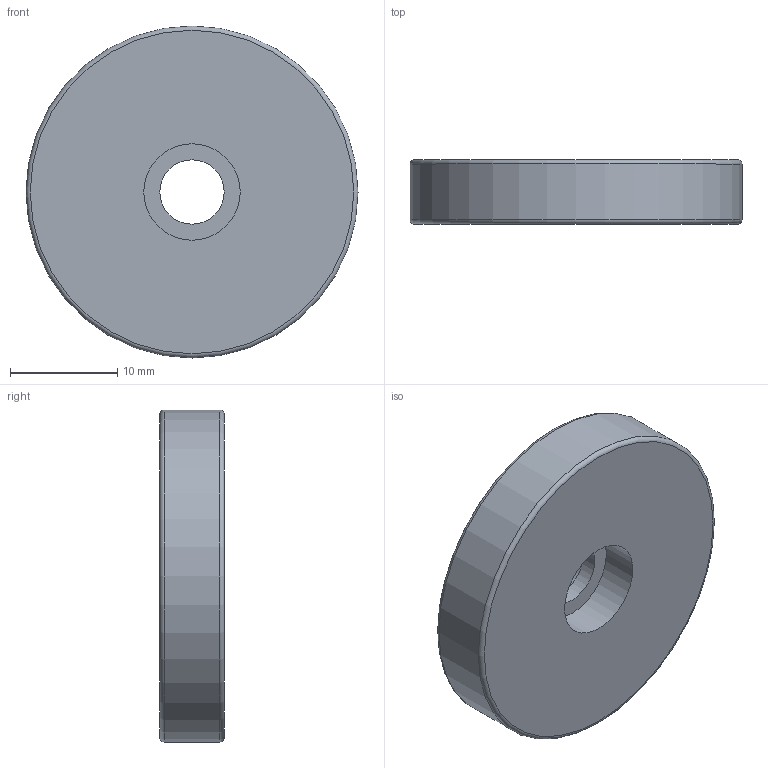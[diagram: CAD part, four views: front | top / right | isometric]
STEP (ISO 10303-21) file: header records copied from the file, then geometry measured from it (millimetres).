
FILE_DESCRIPTION( ( 'STEP AP203' ), '1' );
FILE_NAME( 'C:/Temp/Ganter_Step_05_03_2020/data/3_9/gn51_4/Retaining magnet GN 51.4-ND-31-WS.stp', '2020-03-10T07:42:01', ( 'License CC BY-ND 4.0' ), ( 'CADENAS' ), ' ', 'PARTsolutions', ' ' );
FILE_SCHEMA( ( 'CONFIG_CONTROL_DESIGN' ) );
Length unit declared in the file: millimetre
Products named in the file (1): _Retaining magnet GN 51.4-ND-31-WS
Bounding box: 31 x 6 x 31 mm (x, y, z)
Volume: 4206.6 mm3; surface area: 2156.1 mm2
Topology: 1 solids, 1 shells, 10 faces, 16 edges, 10 vertices
Faces by surface type: plane 4, cylinder 4, torus 2
Full cylindrical faces by diameter (mm): 6 x1, 8 x1, 9 x1, 31 x1
Entity records: 252 total; most frequent: DIRECTION 42, CARTESIAN_POINT 31, AXIS2_PLACEMENT_3D 21, EDGE_LOOP 20, ORIENTED_EDGE 20, FACE_OUTER_BOUND 16, ADVANCED_FACE 10, EDGE_CURVE 10
